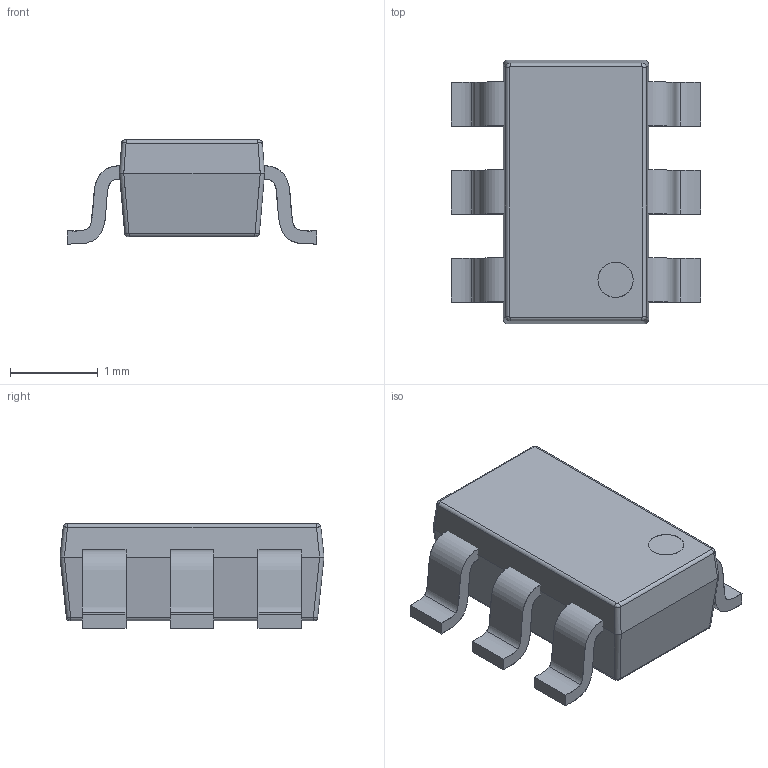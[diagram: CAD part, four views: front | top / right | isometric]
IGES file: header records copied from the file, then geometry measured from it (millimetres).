
Global section: file name: C:\Users\Mart\Documents\Libraries\3D Componenten\sot\SOT23-5.igs; native system: Rhinoceros ( Oct 24 2012 ); preprocessor: Trout Lake IGES 012 Oct 24 2012; author: MB2015; date: 151020.183703; units: millimetre
Bounding box: 2.84 x 3 x 1.18 mm (x, y, z)
Surface area: 28.8 mm2 (no closed solid volume)
Topology: 0 solids, 0 shells, 77 faces, 640 edges, 640 vertices
Faces by surface type: bspline 77
